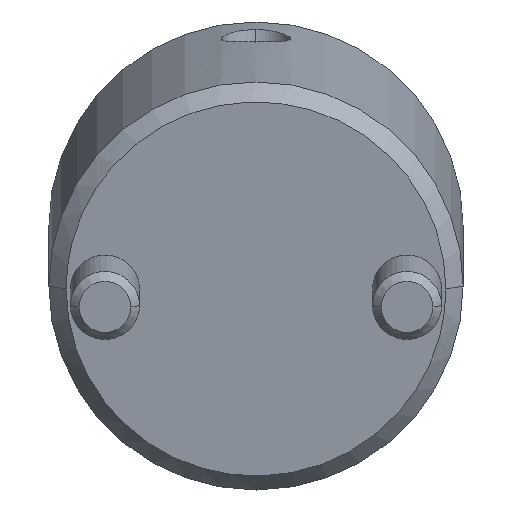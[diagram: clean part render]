
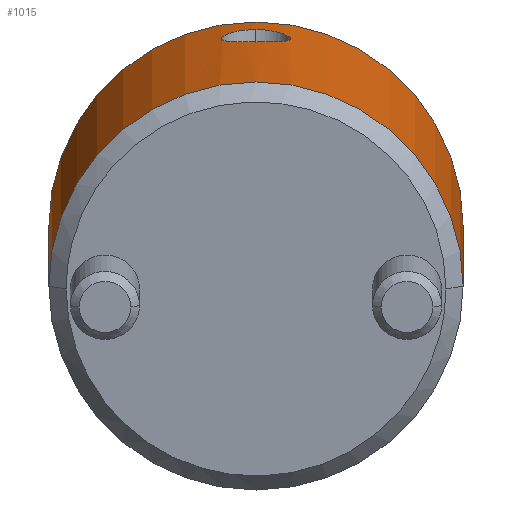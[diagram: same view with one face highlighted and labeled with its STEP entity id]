
A CAD part, front view. The second image highlights one B-rep face of the part: STEP entity #1015.
In plain terms, the highlighted cylindrical face has radius 12 mm (diameter 24 mm), a partial arc.
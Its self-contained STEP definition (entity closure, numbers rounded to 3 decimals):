
#778=CARTESIAN_POINT('Vertex',(0.,12.,1.)) ;
#781=CARTESIAN_POINT('Axis2P3D Location',(0.,0.,1.)) ;
#785=CARTESIAN_POINT('Vertex',(0.,-12.,1.)) ;
#925=CARTESIAN_POINT('Axis2P3D Location',(0.,0.,-1.1)) ;
#930=CARTESIAN_POINT('Line Origine',(0.,12.,-1.1)) ;
#934=CARTESIAN_POINT('Vertex',(0.,12.,21.)) ;
#937=CARTESIAN_POINT('Axis2P3D Location',(0.,0.,21.)) ;
#941=CARTESIAN_POINT('Vertex',(0.,-12.,21.)) ;
#944=CARTESIAN_POINT('Line Origine',(0.,-12.,-1.1)) ;
#956=CARTESIAN_POINT('Control Point',(12.,0.,18.464)) ;
#957=CARTESIAN_POINT('Control Point',(12.,0.274,18.464)) ;
#958=CARTESIAN_POINT('Control Point',(11.992,0.543,18.416)) ;
#959=CARTESIAN_POINT('Control Point',(11.977,0.805,18.319)) ;
#960=CARTESIAN_POINT('Control Point',(11.946,1.165,18.108)) ;
#961=CARTESIAN_POINT('Control Point',(11.912,1.459,17.817)) ;
#962=CARTESIAN_POINT('Control Point',(11.9,1.55,17.71)) ;
#963=CARTESIAN_POINT('Control Point',(11.866,1.797,17.365)) ;
#964=CARTESIAN_POINT('Control Point',(11.841,1.952,16.967)) ;
#965=CARTESIAN_POINT('Control Point',(11.83,2.01,16.685)) ;
#966=CARTESIAN_POINT('Control Point',(11.828,2.026,16.191)) ;
#967=CARTESIAN_POINT('Control Point',(11.849,1.898,15.716)) ;
#968=CARTESIAN_POINT('Control Point',(11.862,1.818,15.525)) ;
#969=CARTESIAN_POINT('Control Point',(11.888,1.644,15.224)) ;
#970=CARTESIAN_POINT('Control Point',(11.917,1.411,14.969)) ;
#971=CARTESIAN_POINT('Control Point',(11.929,1.309,14.876)) ;
#972=CARTESIAN_POINT('Control Point',(11.959,1.018,14.652)) ;
#973=CARTESIAN_POINT('Control Point',(11.984,0.68,14.499)) ;
#974=CARTESIAN_POINT('Control Point',(11.994,0.458,14.434)) ;
#975=CARTESIAN_POINT('Control Point',(12.,0.231,14.402)) ;
#976=CARTESIAN_POINT('Control Point',(12.,0.,14.402)) ;
#977=CARTESIAN_POINT('Vertex',(12.,0.,18.464)) ;
#979=CARTESIAN_POINT('Vertex',(12.,0.,14.402)) ;
#983=CARTESIAN_POINT('Control Point',(12.,0.,14.402)) ;
#984=CARTESIAN_POINT('Control Point',(12.,-0.139,14.402)) ;
#985=CARTESIAN_POINT('Control Point',(11.998,-0.277,14.414)) ;
#986=CARTESIAN_POINT('Control Point',(11.994,-0.414,14.438)) ;
#987=CARTESIAN_POINT('Control Point',(11.982,-0.682,14.508)) ;
#988=CARTESIAN_POINT('Control Point',(11.964,-0.935,14.623)) ;
#989=CARTESIAN_POINT('Control Point',(11.954,-1.057,14.692)) ;
#990=CARTESIAN_POINT('Control Point',(11.932,-1.285,14.849)) ;
#991=CARTESIAN_POINT('Control Point',(11.909,-1.482,15.042)) ;
#992=CARTESIAN_POINT('Control Point',(11.897,-1.571,15.147)) ;
#993=CARTESIAN_POINT('Control Point',(11.864,-1.813,15.485)) ;
#994=CARTESIAN_POINT('Control Point',(11.839,-1.961,15.876)) ;
#995=CARTESIAN_POINT('Control Point',(11.83,-2.014,16.155)) ;
#996=CARTESIAN_POINT('Control Point',(11.829,-2.021,16.578)) ;
#997=CARTESIAN_POINT('Control Point',(11.845,-1.923,16.989)) ;
#998=CARTESIAN_POINT('Control Point',(11.852,-1.88,17.123)) ;
#999=CARTESIAN_POINT('Control Point',(11.869,-1.769,17.383)) ;
#1000=CARTESIAN_POINT('Control Point',(11.891,-1.617,17.622)) ;
#1001=CARTESIAN_POINT('Control Point',(11.903,-1.53,17.735)) ;
#1002=CARTESIAN_POINT('Control Point',(11.932,-1.296,17.993)) ;
#1003=CARTESIAN_POINT('Control Point',(11.959,-1.012,18.196)) ;
#1004=CARTESIAN_POINT('Control Point',(11.974,-0.831,18.294)) ;
#1005=CARTESIAN_POINT('Control Point',(11.99,-0.553,18.399)) ;
#1006=CARTESIAN_POINT('Control Point',(11.998,-0.264,18.449)) ;
#1007=CARTESIAN_POINT('Control Point',(11.999,-0.176,18.459)) ;
#1008=CARTESIAN_POINT('Control Point',(12.,-0.088,18.464)) ;
#1009=CARTESIAN_POINT('Control Point',(12.,0.,18.464)) ;
#782=DIRECTION('Axis2P3D Direction',(0.,0.,1.)) ;
#926=DIRECTION('Axis2P3D Direction',(0.,-0.,1.)) ;
#927=DIRECTION('Axis2P3D XDirection',(0.,-1.,0.)) ;
#931=DIRECTION('Vector Direction',(0.,0.,1.)) ;
#938=DIRECTION('Axis2P3D Direction',(0.,-0.,1.)) ;
#945=DIRECTION('Vector Direction',(0.,0.,1.)) ;
#783=AXIS2_PLACEMENT_3D('Circle Axis2P3D',#781,#782,$) ;
#928=AXIS2_PLACEMENT_3D('Cylinder Axis2P3D',#925,#926,#927) ;
#939=AXIS2_PLACEMENT_3D('Circle Axis2P3D',#937,#938,$) ;
#950=ORIENTED_EDGE('',*,*,#936,.F.) ;
#951=ORIENTED_EDGE('',*,*,#943,.T.) ;
#952=ORIENTED_EDGE('',*,*,#948,.T.) ;
#953=ORIENTED_EDGE('',*,*,#787,.F.) ;
#1012=ORIENTED_EDGE('',*,*,#981,.T.) ;
#1013=ORIENTED_EDGE('',*,*,#1010,.T.) ;
#1014=FACE_BOUND('',#1011,.T.) ;
#932=VECTOR('Line Direction',#931,1.) ;
#946=VECTOR('Line Direction',#945,1.) ;
#1015=ADVANCED_FACE('MANIFOLD_SOLID_BREP #1097',(#954,#1014),#929,.T.) ;
#955=B_SPLINE_CURVE_WITH_KNOTS('',5,(#956,#957,#958,#959,#960,#961,#962,#963,#964,#965,#966,#967,#968,#969,#970,#971,#972,#973,#974,#975,#976),.UNSPECIFIED.,.F.,.U.,(6,3,3,3,3,3,6),(0.,1.934,2.932,4.914,6.38,7.357,8.982),.UNSPECIFIED.) ;
#982=B_SPLINE_CURVE_WITH_KNOTS('',5,(#983,#984,#985,#986,#987,#988,#989,#990,#991,#992,#993,#994,#995,#996,#997,#998,#999,#1000,#1001,#1002,#1003,#1004,#1005,#1006,#1007,#1008,#1009),.UNSPECIFIED.,.F.,.U.,(6,3,3,3,3,3,3,3,6),(0.,0.981,1.96,2.938,4.898,5.895,6.892,8.359,8.982),.UNSPECIFIED.) ;
#784=CIRCLE('generated circle',#783,12.) ;
#940=CIRCLE('generated circle',#939,12.) ;
#929=CYLINDRICAL_SURFACE('generated cylinder',#928,12.) ;
#787=EDGE_CURVE('',#779,#786,#784,.F.) ;
#936=EDGE_CURVE('',#935,#779,#933,.F.) ;
#943=EDGE_CURVE('',#935,#942,#940,.F.) ;
#948=EDGE_CURVE('',#942,#786,#947,.F.) ;
#981=EDGE_CURVE('',#978,#980,#955,.T.) ;
#1010=EDGE_CURVE('',#980,#978,#982,.T.) ;
#949=EDGE_LOOP('',(#950,#951,#952,#953)) ;
#1011=EDGE_LOOP('',(#1012,#1013)) ;
#954=FACE_OUTER_BOUND('',#949,.T.) ;
#933=LINE('Line',#930,#932) ;
#947=LINE('Line',#944,#946) ;
#779=VERTEX_POINT('',#778) ;
#786=VERTEX_POINT('',#785) ;
#935=VERTEX_POINT('',#934) ;
#942=VERTEX_POINT('',#941) ;
#978=VERTEX_POINT('',#977) ;
#980=VERTEX_POINT('',#979) ;
